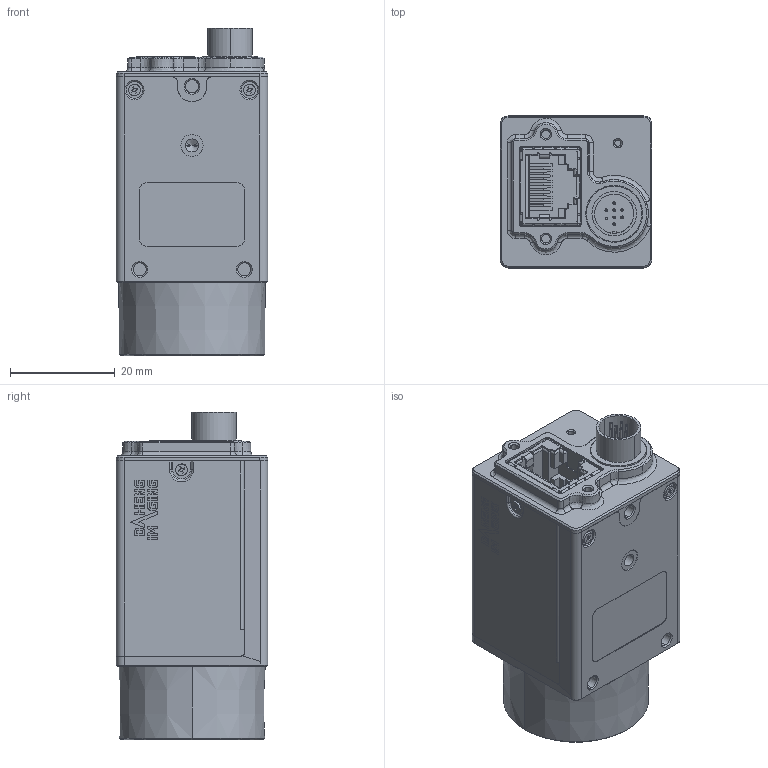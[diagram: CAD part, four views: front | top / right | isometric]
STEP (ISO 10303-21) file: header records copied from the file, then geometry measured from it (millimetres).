
FILE_DESCRIPTION (( 'STEP AP203' ), '1' );
FILE_NAME ('mer2_poe_user_a1.0.1.STEP', '2019-09-26T06:14:49', ( '' ), ( '' ), 'SwSTEP 2.0', 'SolidWorks 2016', '' );
FILE_SCHEMA (( 'CONFIG_CONTROL_DESIGN' ));
Length unit declared in the file: millimetre
Products named in the file (1): mer2_poe_user_a1.0.1
Bounding box: 29 x 29 x 62.6 mm (x, y, z)
Volume: 26935.4 mm3; surface area: 27184 mm2
Topology: 15 solids, 19 shells, 2253 faces, 5799 edges, 3622 vertices
Faces by surface type: plane 1062, cylinder 624, bspline 244, cone 221, torus 98, sphere 4
Entity records: 76507 total; most frequent: CARTESIAN_POINT 23787, ORIENTED_EDGE 11492, DIRECTION 10359, EDGE_CURVE 5746, VERTEX_POINT 3622, AXIS2_PLACEMENT_3D 3511, LINE 3337, VECTOR 3337
